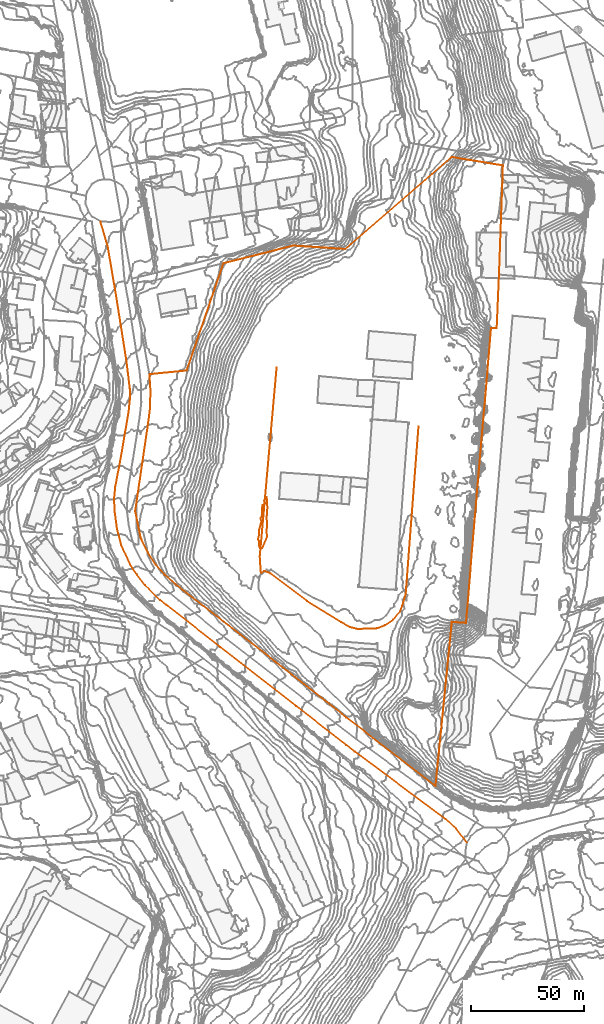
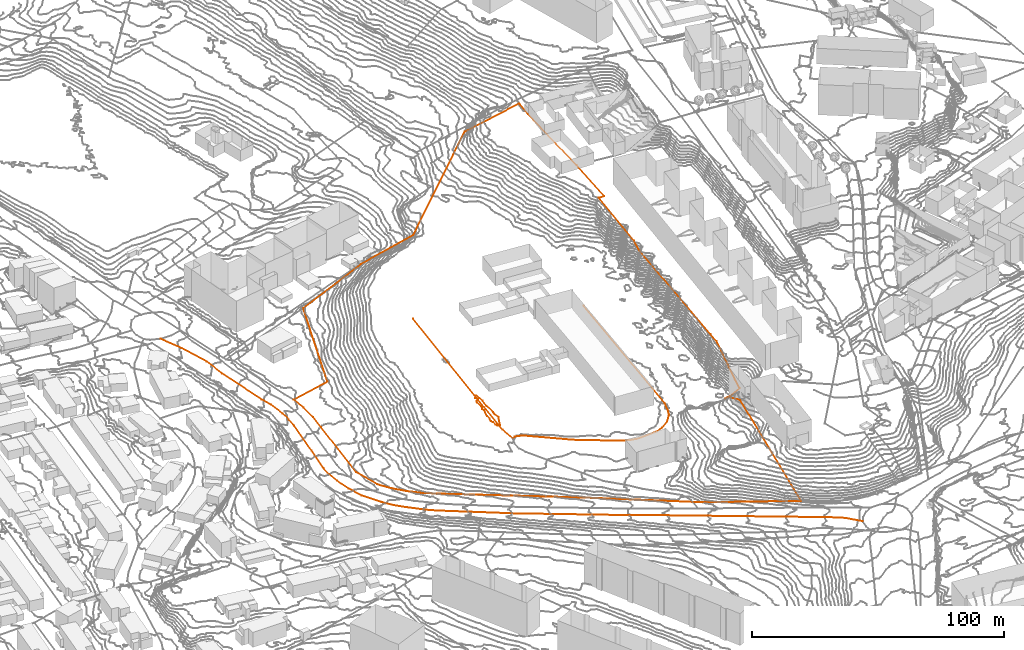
# Not in any storey, part 255 of 419: 5 proxies.
"""IFC2X3 model written with IfcOpenShell, lengths in metres."""

from ifc_helpers import new_model, entity, si_unit, frame, origin_with_axes, place, context, subcontext, project, element, save


model = new_model("IFC2X3")

# Units and contexts
model_context = context("Model", 3, precision=1e-05, world=origin_with_axes())
body_context = subcontext(model_context, "Body", "Model", "MODEL_VIEW")
ifc_project = project(units=[si_unit("AREAUNIT", "SQUARE_METRE"), si_unit("LENGTHUNIT", "METRE")], contexts=[model_context])

# Proxies
proxy_1_placement = place(None, frame((705.9920204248, 673.0976909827, 71.4), z_axis=(0.0, 0.0, 1.0), x_axis=(1.0, 0.0, 0.0)))
element("IfcBuildingElementProxy", 1, at=proxy_1_placement, Name="Route 55", ObjectType="NOTDEFINED", context=body_context, shape_type="GeometricCurveSet", body=[
    entity("IfcGeometricCurveSet", [entity("IfcPolyline", [entity("IfcCartesianPoint", [0.5, -7.2999999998, 0.1]), entity("IfcCartesianPoint", [0.0, 0.0, 0.0]), entity("IfcCartesianPoint", [7.5, 84.0, 0.2])])]),
])
proxy_2_placement = place(None, frame((635.1920204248, 821.8976909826, 50.0), z_axis=(0.0, 0.0, 1.0), x_axis=(1.0, 0.0, 0.0)))
element("IfcBuildingElementProxy", 2, at=proxy_2_placement, Name="Route 97", ObjectType="NOTDEFINED", context=body_context, shape_type="GeometricCurveSet", body=[
    entity("IfcGeometricCurveSet", [entity("IfcPolyline", [entity("IfcCartesianPoint", [162.8, -275.9000000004, 21.9]), entity("IfcCartesianPoint", [158.0, -269.5999999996, 21.4]), entity("IfcCartesianPoint", [153.3, -265.5, 20.9]), entity("IfcCartesianPoint", [112.9, -235.4000000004, 17.5]), entity("IfcCartesianPoint", [109.1, -232.5, 17.2]), entity("IfcCartesianPoint", [86.9, -215.2000000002, 14.7]), entity("IfcCartesianPoint", [53.2000000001, -189.0, 11.4]), entity("IfcCartesianPoint", [29.4, -170.4000000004, 9.8]), entity("IfcCartesianPoint", [26.5, -168.2000000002, 9.7]), entity("IfcCartesianPoint", [19.8, -161.4000000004, 9.3]), entity("IfcCartesianPoint", [16.2000000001, -156.9000000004, 8.9]), entity("IfcCartesianPoint", [13.3, -152.4000000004, 8.7]), entity("IfcCartesianPoint", [9.3, -143.7000000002, 8.0]), entity("IfcCartesianPoint", [7.4, -136.4000000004, 7.6]), entity("IfcCartesianPoint", [6.4, -129.0, 7.2]), entity("IfcCartesianPoint", [6.1, -123.2999999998, 7.0]), entity("IfcCartesianPoint", [6.6, -118.0, 6.6]), entity("IfcCartesianPoint", [9.2000000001, -104.2000000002, 5.7]), entity("IfcCartesianPoint", [12.6, -84.2999999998, 4.7]), entity("IfcCartesianPoint", [13.1, -79.2000000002, 4.4]), entity("IfcCartesianPoint", [13.1, -74.4000000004, 4.3]), entity("IfcCartesianPoint", [12.2000000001, -66.7000000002, 4.2]), entity("IfcCartesianPoint", [11.4, -60.5999999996, 3.4]), entity("IfcCartesianPoint", [7.5, -36.0, 2.4]), entity("IfcCartesianPoint", [5.9, -26.4000000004, 3.0]), entity("IfcCartesianPoint", [3.3, -11.0999999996, 1.1]), entity("IfcCartesianPoint", [0.0, 0.0, 0.0])])]),
])
proxy_3_placement = place(None, frame((706.4920204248, 665.7976909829, 71.5), z_axis=(0.0, 0.0, 1.0), x_axis=(1.0, 0.0, 0.0)))
element("IfcBuildingElementProxy", 3, at=proxy_3_placement, Name="Route 109", ObjectType="NOTDEFINED", context=body_context, shape_type="GeometricCurveSet", body=[
    entity("IfcGeometricCurveSet", [entity("IfcPolyline", [entity("IfcCartesianPoint", [0.0, 0.0, 0.0]), entity("IfcCartesianPoint", [1.5, 0.8999999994, -0.2]), entity("IfcCartesianPoint", [4.4, -0.3000000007, 0.0]), entity("IfcCartesianPoint", [20.4, -12.5, -0.3]), entity("IfcCartesianPoint", [35.5, -21.9000000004, -0.3]), entity("IfcCartesianPoint", [39.7, -24.1000000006, -0.2]), entity("IfcCartesianPoint", [42.9, -24.9000000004, -0.1]), entity("IfcCartesianPoint", [51.7, -24.6000000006, 0.1]), entity("IfcCartesianPoint", [55.1, -23.2000000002, 0.0]), entity("IfcCartesianPoint", [58.7999999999, -20.7000000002, 0.0]), entity("IfcCartesianPoint", [61.7, -17.1000000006, 0.2]), entity("IfcCartesianPoint", [62.7, -14.7000000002, 0.3]), entity("IfcCartesianPoint", [64.2999999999, -9.4000000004, 0.3]), entity("IfcCartesianPoint", [70.0, 65.0999999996, 0.3])])]),
])
proxy_4_placement = place(None, frame((650.6720204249, 693.3176909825, 57.9898087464), z_axis=(0.0, 0.0, 1.0), x_axis=(1.0, 0.0, 0.0)))
element("IfcBuildingElementProxy", 4, at=proxy_4_placement, Name="Cadastre 83", ObjectType="NOTDEFINED", context=body_context, shape_type="GeometricCurveSet", body=[
    entity("IfcGeometricCurveSet", [entity("IfcPolyline", [entity("IfcCartesianPoint", [163.3199999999, 153.4199999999, 28.3961514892]), entity("IfcCartesianPoint", [163.24, 152.5, 28.3878725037]), entity("IfcCartesianPoint", [163.0399999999, 145.9000000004, 27.8771276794]), entity("IfcCartesianPoint", [161.5599999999, 104.96, 28.4558576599]), entity("IfcCartesianPoint", [160.5299999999, 81.1400000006, 28.2950912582]), entity("IfcCartesianPoint", [158.0099999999, 81.2599999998, 28.2674934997]), entity("IfcCartesianPoint", [155.2899999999, 48.5700000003, 28.2463141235]), entity("IfcCartesianPoint", [154.7699999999, 43.3200000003, 26.9200703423]), entity("IfcCartesianPoint", [149.11, -22.8599999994, 28.4903621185]), entity("IfcCartesianPoint", [148.72, -28.46, 28.5689500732]), entity("IfcCartesianPoint", [146.8999999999, -49.7299999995, 19.3363121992]), entity("IfcCartesianPoint", [142.74, -49.46, 16.9399675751]), entity("IfcCartesianPoint", [140.58, -49.3099999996, 16.3092881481]), entity("IfcCartesianPoint", [140.37, -51.6299999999, 18.6069872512]), entity("IfcCartesianPoint", [139.1599999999, -63.7199999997, 24.8766714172]), entity("IfcCartesianPoint", [133.35, -122.2599999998, 13.5129344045]), entity("IfcCartesianPoint", [101.97, -98.0300000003, 9.0997068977]), entity("IfcCartesianPoint", [93.74, -91.6899999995, 8.6638577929]), entity("IfcCartesianPoint", [62.4299999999, -67.1099999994, 6.5926254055]), entity("IfcCartesianPoint", [18.0499999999, -32.7699999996, 3.118901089]), entity("IfcCartesianPoint", [13.2899999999, -28.5199999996, 2.5786716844]), entity("IfcCartesianPoint", [9.1299999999, -23.7299999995, 1.9986887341]), entity("IfcCartesianPoint", [5.61, -18.46, 1.3550166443]), entity("IfcCartesianPoint", [2.7799999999, -12.79, 0.643207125]), entity("IfcCartesianPoint", [2.5199999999, -12.1699999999, 0.65419207]), entity("IfcCartesianPoint", [0.0, 0.0, 0.0]), entity("IfcCartesianPoint", [5.5499999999, 37.6400000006, -2.9019647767]), entity("IfcCartesianPoint", [6.5699999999, 45.46, -3.3168086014]), entity("IfcCartesianPoint", [6.7999999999, 53.4100000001, -3.517525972]), entity("IfcCartesianPoint", [6.2999999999, 60.7199999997, -3.9762726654]), entity("IfcCartesianPoint", [22.8199999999, 62.3799999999, -1.9623092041]), entity("IfcCartesianPoint", [39.2, 110.0700000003, -1.0924472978]), entity("IfcCartesianPoint", [70.1899999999, 117.8500000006, 4.7381125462]), entity("IfcCartesianPoint", [93.24, 116.3100000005, 11.6687493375]), entity("IfcCartesianPoint", [140.3999999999, 157.2000000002, 20.4134246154]), entity("IfcCartesianPoint", [163.3199999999, 153.4199999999, 28.3961514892])])]),
])
proxy_5_placement = place(None, frame((705.2349087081, 680.8976909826, 71.0), z_axis=(0.0, 0.0, 1.0), x_axis=(1.0, 0.0, 0.0)))
element("IfcBuildingElementProxy", 5, at=proxy_5_placement, Name="Contour 71.0 m", ObjectType="NOTDEFINED", context=body_context, shape_type="GeometricCurveSet", body=[
    entity("IfcGeometricCurveSet", [entity("IfcPolyline", [entity("IfcCartesianPoint", [1.8571117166, -3.999966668, 0.0]), entity("IfcCartesianPoint", [4.0237995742, 1.0, 0.0]), entity("IfcCartesianPoint", [3.6753124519, 4.0, 0.0]), entity("IfcCartesianPoint", [3.9571346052, 5.0, 0.0]), entity("IfcCartesianPoint", [3.8570867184, 10.0, 0.0]), entity("IfcCartesianPoint", [4.1648175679, 14.0, 0.0]), entity("IfcCartesianPoint", [3.8571117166, 18.4999500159, 0.0]), entity("IfcCartesianPoint", [2.657081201, 17.0, 0.0]), entity("IfcCartesianPoint", [3.3571367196, 16.0, 0.0]), entity("IfcCartesianPoint", [2.0571422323, 15.0, 0.0]), entity("IfcCartesianPoint", [1.6753124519, 14.0, 0.0]), entity("IfcCartesianPoint", [1.7570888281, 11.0, 0.0]), entity("IfcCartesianPoint", [1.6349177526, 10.0, 0.0]), entity("IfcCartesianPoint", [1.107087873, 9.0, 0.0]), entity("IfcCartesianPoint", [1.5238207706, 8.0, 0.0]), entity("IfcCartesianPoint", [0.4999455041, 4.0, 0.0]), entity("IfcCartesianPoint", [0.5238207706, 2.0, 0.0]), entity("IfcCartesianPoint", [0.0, 0.0, 0.0]), entity("IfcCartesianPoint", [0.3571283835, -1.0, 0.0]), entity("IfcCartesianPoint", [0.457142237, -3.0, 0.0]), entity("IfcCartesianPoint", [0.8571117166, -3.9999499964, 0.0]), entity("IfcCartesianPoint", [1.8571117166, -3.999966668, 0.0])])]),
])

save(model, "model.ifc")
